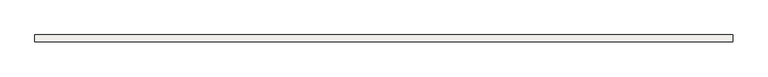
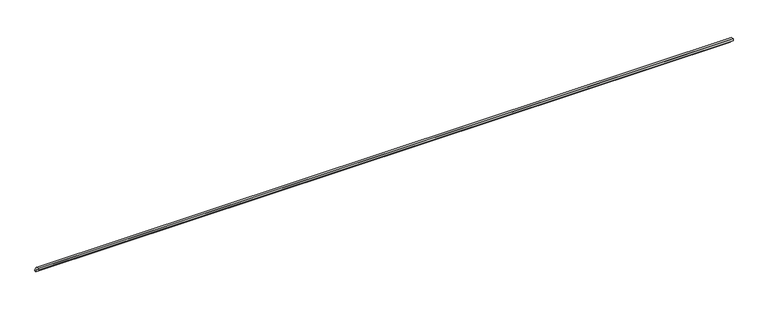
"""IFC4 building model written with IfcOpenShell, lengths in millimetres: slab geometry, ROSA GRES_138 : Pieza 138_Aqua_Plomo_Anti-Slip."""

from ifc_helpers import new_model, si_unit, point, frame, frame_2d, origin, origin_2d, place, context, project, spatial, polyline, circle_curve, trimmed, segment, composite_curve, outline, extrude, source, transform, mapped, element, save


def slab_188b37af(model_context):
    return source(origin(), model_context, "Body", "SweptSolid", [
        extrude(outline(composite_curve([segment(trimmed(circle_curve(origin_2d(), 40.0), [point((0.0, 40.0))], [point((40.0, 0.0))], False, "CARTESIAN"), True, "CONTINUOUS"), segment(polyline([(40.0, 0.0), (30.0265886, 0.0)]), True, "CONTINUOUS"), segment(trimmed(circle_curve(frame_2d((0.0044453, 0.0044453)), 30.0221435), [point((30.0265886, 0.0))], [point((0.0, 30.0265886))], True, "CARTESIAN"), True, "CONTINUOUS"), segment(polyline([(0.0, 30.0265886), (0.0, 40.0)]), True, "CONTINUOUS")], self_intersect=False)), frame((0.0, 0.0, 0.0), z_axis=(1.0, 0.0, 0.0), x_axis=(0.0, 1.0, 0.0)), (0.0, 0.0, 1.0), 3990.0),
    ])


if __name__ == "__main__":
    model = new_model("IFC4")
    model_context = context("Model", 3, world=origin())
    ifc_project = project(units=[si_unit("LENGTHUNIT", "METRE", prefix="MILLI")], contexts=[model_context])
    site = spatial("IfcSite", under=ifc_project)
    building = spatial("IfcBuilding", under=site)
    placement = place(None, origin())
    slab_shape = slab_188b37af(model_context)
    element("IfcSlab", 1, ObjectType="ROSA GRES_138 : Pieza 138_Aqua_Plomo_Anti-Slip", at=placement, inside=building, context=model_context, shape_type="MappedRepresentation", body=[
        mapped(slab_shape, transform((0.0, 0.0, 0.0), x_axis=(1.0, 0.0, 0.0), y_axis=(0.0, 1.0, 0.0), z_axis=(0.0, 0.0, 1.0))),
    ])
    save(model, "model.ifc")
